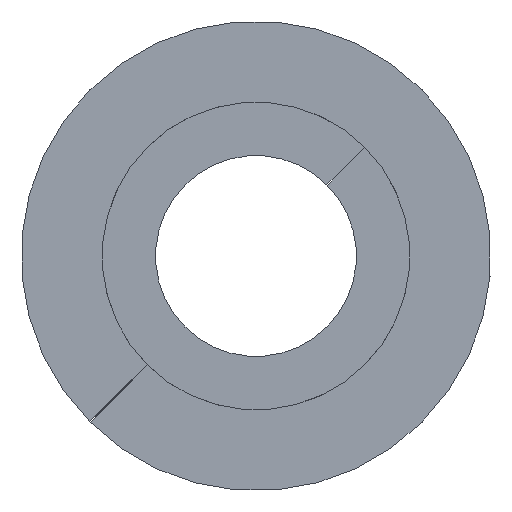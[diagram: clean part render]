
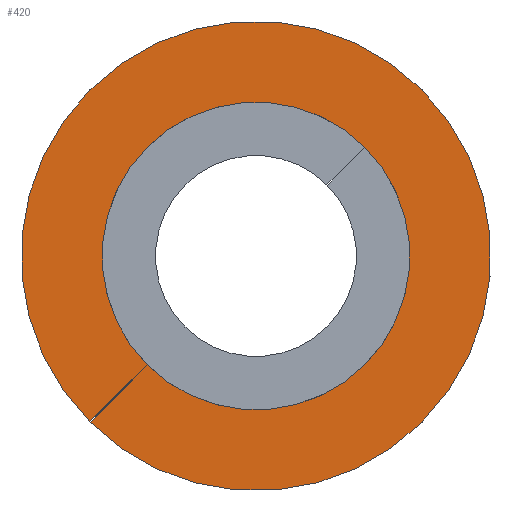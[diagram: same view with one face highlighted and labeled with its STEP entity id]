
A CAD part, left-side view. The second image highlights one B-rep face of the part: STEP entity #420.
In plain terms, the highlighted planar face has unit normal (-1, 0, 0) as drawn and (0, 0, -1) by its records, which use the part's own axes.
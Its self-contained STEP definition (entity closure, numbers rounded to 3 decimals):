
#10=CARTESIAN_POINT('',(0.,0.,0.));
#20=DIRECTION('',(0.,0.,1.));
#30=DIRECTION('',(1.,0.,0.));
#40=AXIS2_PLACEMENT_3D('',#10,#20,#30);
#50=PLANE('',#40);
#60=CARTESIAN_POINT('',(0.,29.733,0.));
#70=DIRECTION('',(-0.707,-0.707,0.));
#80=VECTOR('',#70,1.);
#90=LINE('',#60,#80);
#100=CARTESIAN_POINT('',(36.07,65.803,0.));
#110=VERTEX_POINT('',#100);
#120=CARTESIAN_POINT('',(34.302,64.035,0.));
#130=VERTEX_POINT('',#120);
#140=EDGE_CURVE('',#110,#130,#90,.T.);
#150=ORIENTED_EDGE('',*,*,#140,.F.);
#160=CARTESIAN_POINT('',(30.94,60.68,0.));
#170=DIRECTION('',(0.,0.,1.));
#180=DIRECTION('',(1.,0.,0.));
#190=AXIS2_PLACEMENT_3D('',#160,#170,#180);
#200=CIRCLE('',#190,4.75);
#210=CARTESIAN_POINT('',(34.295,64.042,0.));
#220=VERTEX_POINT('',#210);
#230=EDGE_CURVE('',#220,#130,#200,.T.);
#240=ORIENTED_EDGE('',*,*,#230,.T.);
#250=CARTESIAN_POINT('',(0.,29.747,0.));
#260=DIRECTION('',(0.707,0.707,0.));
#270=VECTOR('',#260,1.);
#280=LINE('',#250,#270);
#290=CARTESIAN_POINT('',(36.063,65.81,0.));
#300=VERTEX_POINT('',#290);
#310=EDGE_CURVE('',#220,#300,#280,.T.);
#320=ORIENTED_EDGE('',*,*,#310,.F.);
#330=CARTESIAN_POINT('',(30.94,60.68,0.));
#340=DIRECTION('',(0.,0.,1.));
#350=DIRECTION('',(1.,0.,0.));
#360=AXIS2_PLACEMENT_3D('',#330,#340,#350);
#370=CIRCLE('',#360,7.25);
#380=EDGE_CURVE('',#300,#110,#370,.T.);
#390=ORIENTED_EDGE('',*,*,#380,.F.);
#400=EDGE_LOOP('',(#390,#320,#240,#150));
#410=FACE_OUTER_BOUND('',#400,.T.);
#420=ADVANCED_FACE('',(#410),#50,.F.);
